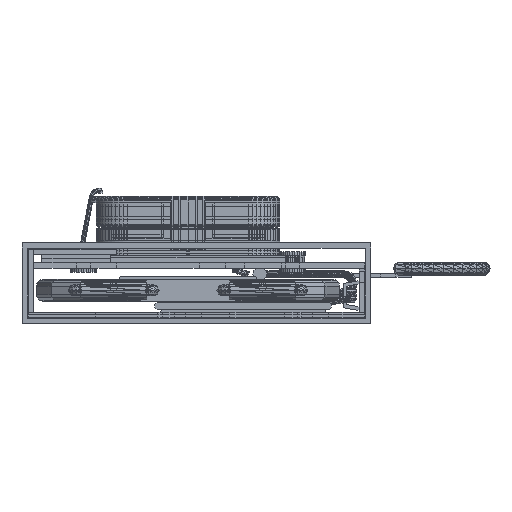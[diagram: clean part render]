
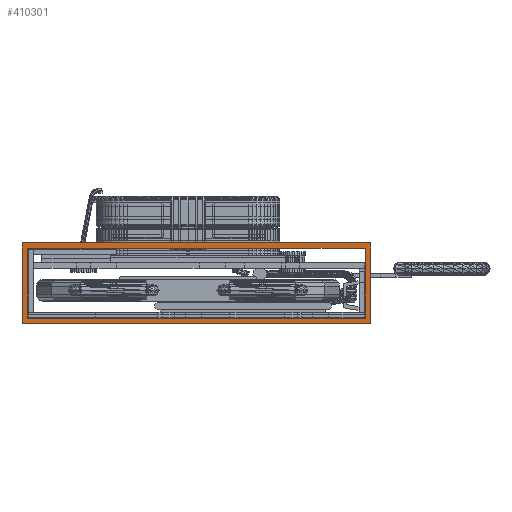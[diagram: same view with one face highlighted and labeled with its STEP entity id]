
A CAD part, left-side view. The second image highlights one B-rep face of the part: STEP entity #410301.
In plain terms, the highlighted planar face has unit normal (-1, 0, 0).
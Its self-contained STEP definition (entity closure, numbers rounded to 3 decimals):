
#410242=DIRECTION('',(0.0,1.0,0.0));
#410243=VECTOR('',#410242,126.4);
#410244=CARTESIAN_POINT('',(-382.5,-66.2,27.1));
#410245=LINE('',#410244,#410243);
#410246=VERTEX_POINT('',#410244);
#410247=CARTESIAN_POINT('',(-382.5,60.2,27.1));
#410248=VERTEX_POINT('',#410247);
#410249=EDGE_CURVE('',#410246,#410248,#410245,.T.);
#410250=ORIENTED_EDGE('',*,*,#410249,.T.);
#410251=DIRECTION('',(0.0,0.0,-1.0));
#410252=VECTOR('',#410251,29.3);
#410253=LINE('',#410247,#410252);
#410254=CARTESIAN_POINT('',(-382.5,60.2,-2.2));
#410255=VERTEX_POINT('',#410254);
#410256=EDGE_CURVE('',#410248,#410255,#410253,.T.);
#410257=ORIENTED_EDGE('',*,*,#410256,.T.);
#410258=DIRECTION('',(0.0,-1.0,0.0));
#410259=VECTOR('',#410258,126.4);
#410260=LINE('',#410254,#410259);
#410261=CARTESIAN_POINT('',(-382.5,-66.2,-2.2));
#410262=VERTEX_POINT('',#410261);
#410263=EDGE_CURVE('',#410255,#410262,#410260,.T.);
#410264=ORIENTED_EDGE('',*,*,#410263,.T.);
#410265=VECTOR('',#410251,29.3);
#410266=LINE('',#410244,#410265);
#410267=EDGE_CURVE('',#410246,#410262,#410266,.T.);
#410268=ORIENTED_EDGE('',*,*,#410267,.F.);
#410269=EDGE_LOOP('',(#410250,#410257,#410264,#410268));
#410270=FACE_OUTER_BOUND('',#410269,.T.);
#410271=VECTOR('',#410242,122.4);
#410272=CARTESIAN_POINT('',(-382.5,-64.2,-0.2));
#410273=LINE('',#410272,#410271);
#410274=VERTEX_POINT('',#410272);
#410275=CARTESIAN_POINT('',(-382.5,58.2,-0.2));
#410276=VERTEX_POINT('',#410275);
#410277=EDGE_CURVE('',#410274,#410276,#410273,.T.);
#410278=ORIENTED_EDGE('',*,*,#410277,.T.);
#410279=DIRECTION('',(0.0,0.0,1.0));
#410280=VECTOR('',#410279,25.3);
#410281=LINE('',#410275,#410280);
#410282=CARTESIAN_POINT('',(-382.5,58.2,25.1));
#410283=VERTEX_POINT('',#410282);
#410284=EDGE_CURVE('',#410276,#410283,#410281,.T.);
#410285=ORIENTED_EDGE('',*,*,#410284,.T.);
#410286=VECTOR('',#410258,122.4);
#410287=LINE('',#410282,#410286);
#410288=CARTESIAN_POINT('',(-382.5,-64.2,25.1));
#410289=VERTEX_POINT('',#410288);
#410290=EDGE_CURVE('',#410283,#410289,#410287,.T.);
#410291=ORIENTED_EDGE('',*,*,#410290,.T.);
#410292=VECTOR('',#410279,25.3);
#410293=LINE('',#410272,#410292);
#410294=EDGE_CURVE('',#410274,#410289,#410293,.T.);
#410295=ORIENTED_EDGE('',*,*,#410294,.F.);
#410296=EDGE_LOOP('',(#410278,#410285,#410291,#410295));
#410297=FACE_BOUND('',#410296,.T.);
#410298=DIRECTION('',(-1.0,0.0,0.0));
#410299=AXIS2_PLACEMENT_3D('',#410244,#410298,#410242);
#410300=PLANE('',#410299);
#410301=ADVANCED_FACE('',(#410270,#410297),#410300,.T.);
